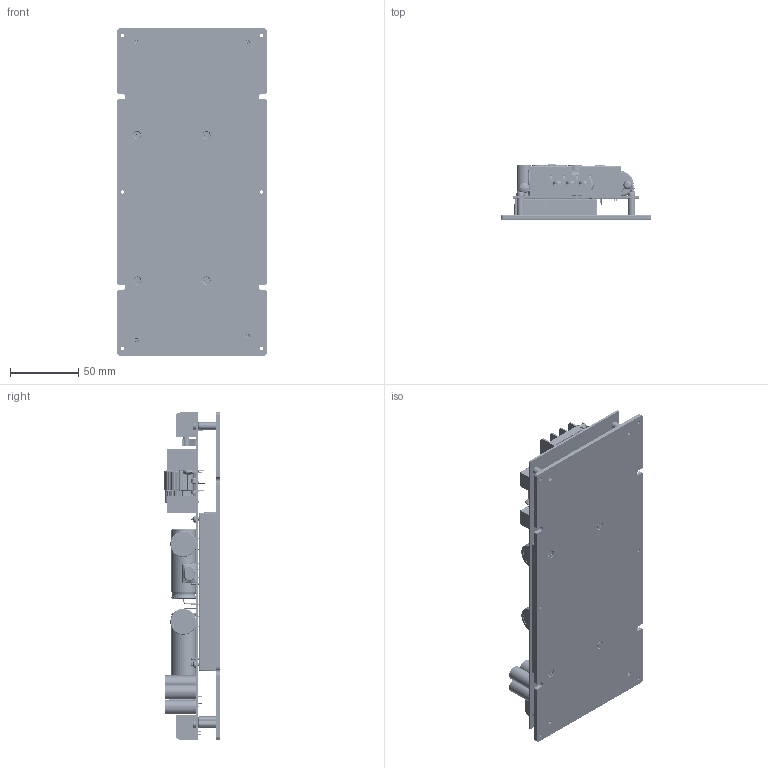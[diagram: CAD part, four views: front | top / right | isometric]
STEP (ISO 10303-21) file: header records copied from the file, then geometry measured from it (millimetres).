
FILE_DESCRIPTION (( 'STEP AP214' ), '1' );
FILE_NAME ('PDF700S CMFC.STEP', '2023-12-27T09:31:11', ( 'cincon' ), ( '' ), 'SwSTEP 2.0', 'SolidWorks 2020', '' );
FILE_SCHEMA (( 'AUTOMOTIVE_DESIGN' ));
Length unit declared in the file: millimetre
Products named in the file (1): PDF700S CMFC
Bounding box: 110 x 40.8 x 240.04 mm (x, y, z)
Volume: 324547 mm3; surface area: 169263.9 mm2
Topology: 70 solids, 85 shells, 5129 faces, 14204 edges, 9280 vertices
Faces by surface type: plane 1875, cylinder 1867, torus 661, bspline 460, cone 262, sphere 4
Entity records: 325097 total; most frequent: CARTESIAN_POINT 141982, ORIENTED_EDGE 28376, DIRECTION 24929, EDGE_CURVE 14188, AXIS2_PLACEMENT_3D 9544, VERTEX_POINT 9280, VECTOR 5841, LINE 5841
